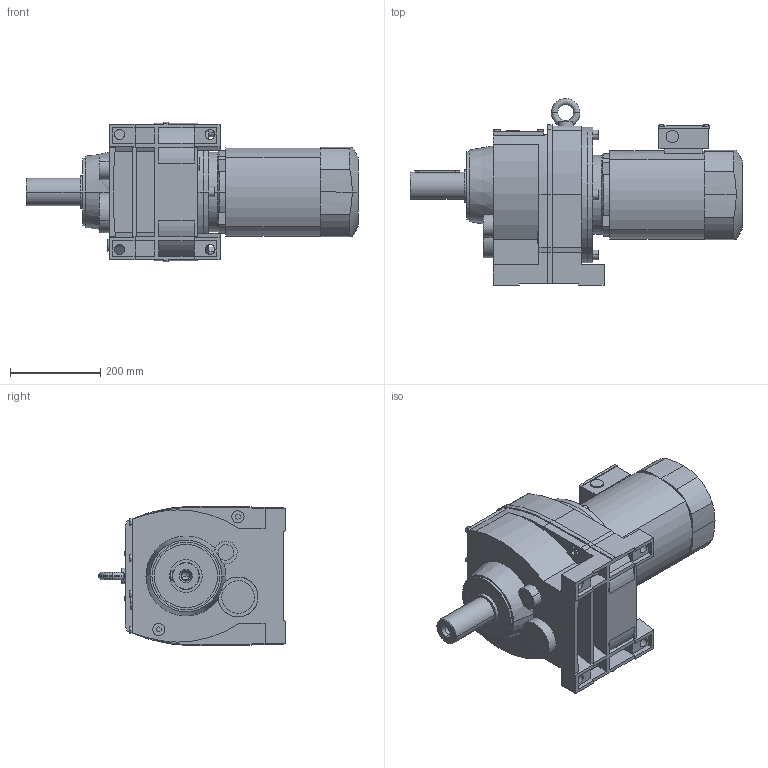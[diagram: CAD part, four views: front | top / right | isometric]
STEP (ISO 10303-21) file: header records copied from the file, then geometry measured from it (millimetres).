
FILE_DESCRIPTION(('STEP AP214'),'1');
FILE_NAME('STEP-File.stp','2018-01-01T00:00:00',(' '),('KEB'),' ','KEB-DRIVE',' ');
FILE_SCHEMA(('AUTOMOTIVE_DESIGN { 1 0 10303 214 1 1 1 1 }'));
Length unit declared in the file: millimetre
Products named in the file (8): g6a; w6_we_60x120; cp6; dm112l_kkn; kk08; PLUG_M25; ndm112; G63A DM112MB4§CAD13
Assembly tree (7 placements, depth 2):
  G63A DM112MB4§CAD13
    g6a
    w6_we_60x120
    cp6
    dm112l_kkn
    kk08
    PLUG_M25
    ndm112
Bounding box: 734 x 413 x 309 mm (x, y, z)
Volume: 32427137.1 mm3; surface area: 1215105.1 mm2
Topology: 7 solids, 7 shells, 589 faces, 1749 edges, 1383 vertices
Faces by surface type: plane 416, cylinder 121, cone 46, torus 6
Entity records: 22004 total; most frequent: CARTESIAN_POINT 6606, ORIENTED_EDGE 3494, DIRECTION 2403, EDGE_CURVE 1747, VERTEX_POINT 1383, VECTOR 1345, LINE 1345, EDGE_LOOP 810
